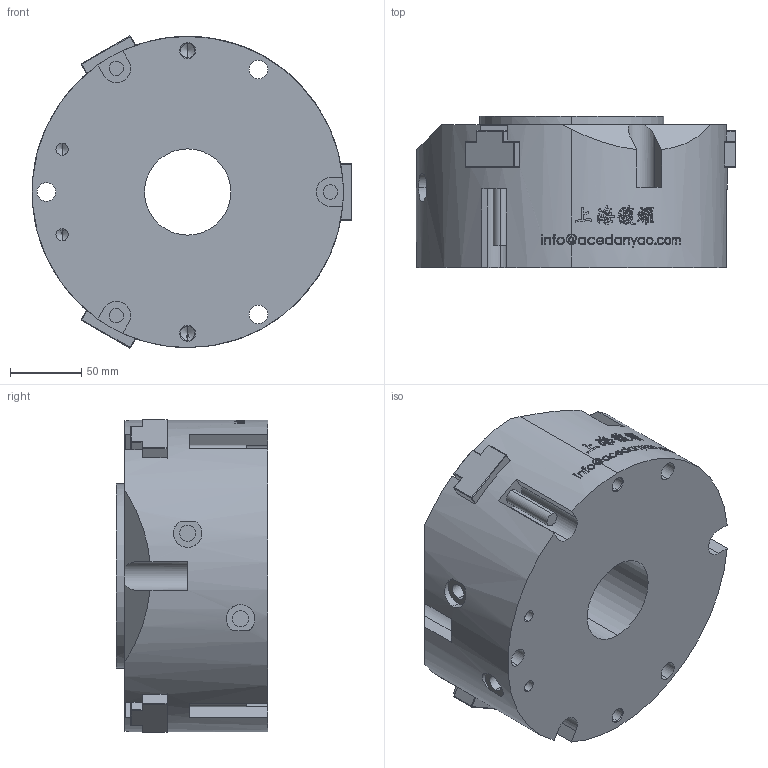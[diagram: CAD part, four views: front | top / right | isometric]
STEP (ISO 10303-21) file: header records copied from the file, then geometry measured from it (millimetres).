
FILE_DESCRIPTION (( 'STEP AP203' ), '1' );
FILE_NAME ('MFB220-原始檔-組合-W104.04.14.STEP', '2017-04-14T09:12:51', ( 'DanyaoCAD' ), ( '' ), 'SwSTEP 2.0', 'SolidWorks 2016', '' );
FILE_SCHEMA (( 'CONFIG_CONTROL_DESIGN' ));
Length unit declared in the file: millimetre
Products named in the file (3): Griffa; Corpo; MFB220-原始檔-組合-W104.04.14
Assembly tree (4 placements, depth 2):
  MFB220-原始檔-組合-W104.04.14
    Griffa  x3
    Corpo
Bounding box: 223.95 x 106 x 218.69 mm (x, y, z)
Volume: 3237897.4 mm3; surface area: 256860.1 mm2
Topology: 4 solids, 4 shells, 1121 faces, 3075 edges, 2016 vertices
Faces by surface type: bspline 665, plane 313, cylinder 125, cone 18
Entity records: 115785 total; most frequent: CARTESIAN_POINT 95828, ORIENTED_EDGE 5546, EDGE_CURVE 2773, B_SPLINE_CURVE_WITH_KNOTS 2059, VERTEX_POINT 1836, DIRECTION 1571, EDGE_LOOP 1067, FACE_OUTER_BOUND 997
